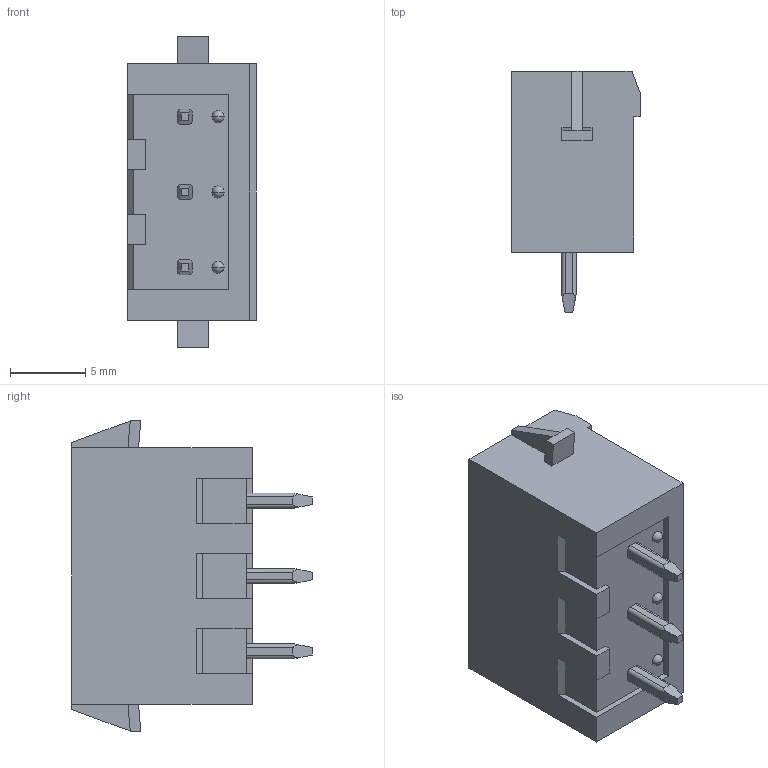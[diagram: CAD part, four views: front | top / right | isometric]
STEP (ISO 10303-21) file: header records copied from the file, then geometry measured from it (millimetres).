
FILE_DESCRIPTION((''),'2;1');
FILE_NAME('33','2019-04-08T',('zhenbing.lai'),(''),'CREO PARAMETRIC BY PTC INC, 2016260','CREO PARAMETRIC BY PTC INC, 2016260','');
FILE_SCHEMA(('CONFIG_CONTROL_DESIGN'));
Length unit declared in the file: millimetre
Products named in the file (1): 33
Bounding box: 8.55 x 16 x 20.6 mm (x, y, z)
Volume: 1015.4 mm3; surface area: 1322.4 mm2
Topology: 1 solids, 1 shells, 175 faces, 477 edges, 307 vertices
Faces by surface type: plane 131, cylinder 31, cone 7, sphere 6
Entity records: 5633 total; most frequent: CARTESIAN_POINT 1262, ORIENTED_EDGE 942, DIRECTION 824, EDGE_CURVE 471, VECTOR 360, LINE 360, VERTEX_POINT 307, AXIS2_PLACEMENT_3D 232
